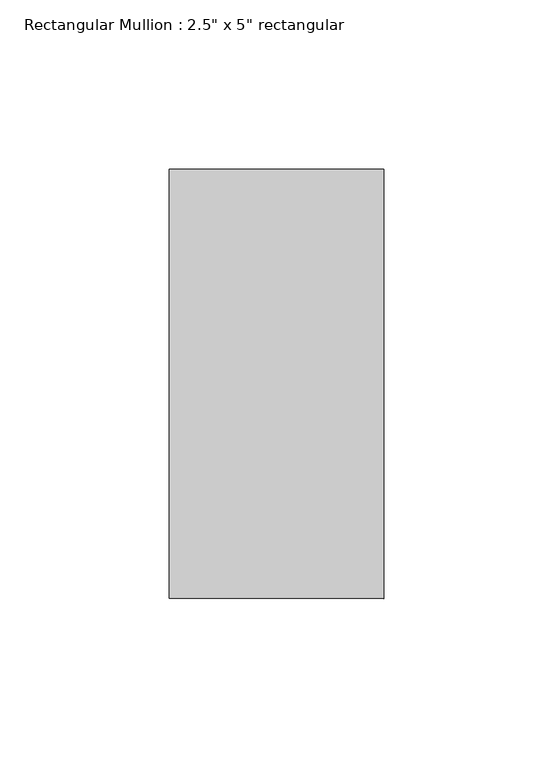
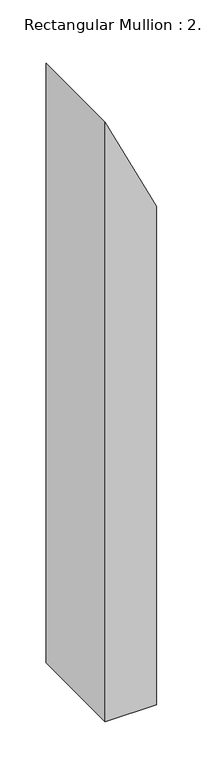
"""IFC4 building model written with IfcOpenShell, lengths in millimetres: member geometry."""

from ifc_helpers import new_model, si_unit, frame, origin, place, context, project, spatial, polyline, outline, extrude, source, transform, mapped, element, save


def member_e590d8a7(model_context):
    return source(origin(), model_context, "Body", "SweptSolid", [
        extrude(outline(polyline([(-213.8405515, 31.75), (-80.8696135, -31.75), (-868.4083787, -31.75), (-868.4083787, 31.75), (-213.8405515, 31.75)])), frame((0.0, -63.5, 0.0), z_axis=(0.0, 1.0, 0.0), x_axis=(0.0, 0.0, 1.0)), (0.0, 0.0, 1.0), 127.0),
    ])


if __name__ == "__main__":
    model = new_model("IFC4")
    model_context = context("Model", 3, world=origin())
    ifc_project = project(units=[si_unit("LENGTHUNIT", "METRE", prefix="MILLI")], contexts=[model_context])
    site = spatial("IfcSite", under=ifc_project)
    building = spatial("IfcBuilding", under=site)
    placement = place(None, origin())
    member_shape = member_e590d8a7(model_context)
    element("IfcMember", 1, ObjectType="Rectangular Mullion : 2.5\" x 5\" rectangular", at=placement, inside=building, context=model_context, shape_type="MappedRepresentation", body=[
        mapped(member_shape, transform((0.0, 0.0, 0.0), x_axis=(1.0, 0.0, 0.0), y_axis=(0.0, 1.0, 0.0), z_axis=(0.0, 0.0, 1.0))),
    ])
    save(model, "model.ifc")
